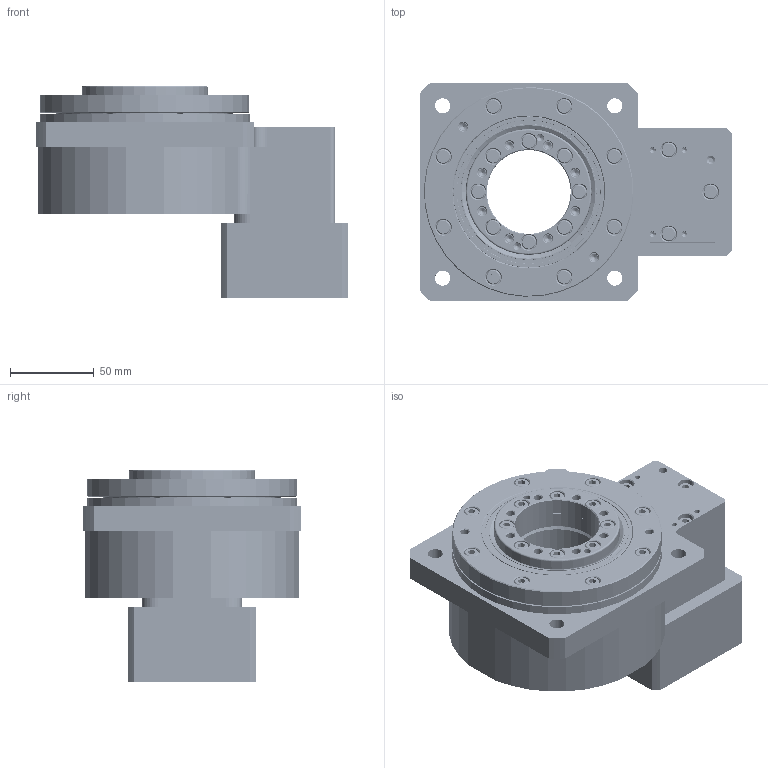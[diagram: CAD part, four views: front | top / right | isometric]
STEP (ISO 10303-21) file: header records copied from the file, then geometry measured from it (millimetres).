
FILE_DESCRIPTION (( 'STEP AP203' ), '1' );
FILE_NAME ('NT130-10-19-70-90-M6(20141118).STEP', '2014-11-19T03:48:58', ( 'user' ), ( 'SYNNEX' ), 'SwSTEP 2.0', 'SolidWorks 2012', '' );
FILE_SCHEMA (( 'CONFIG_CONTROL_DESIGN' ));
Length unit declared in the file: millimetre
Products named in the file (24): NT130-70-90-M6銜接法蘭; ISO 7092_M5; JIS 1176_M5 X 0~8_20_SIMP; JIS 1177 FP_M5 X 0~8_5_SIMP; 培林CRB7013; SKF SRB-619_61900; NT130入力側螺旋左小齒輪1-15-9_左齒輪; NT130入力側螺旋右大齒輪1-30-8_右齒輪; NT130出力側小齒輪1.25-16-16_小齒輪; NT130-10-19-70-90-M6(20141118); NT130馬達墊塊14-9L; GNP60-14-19銜接軸; JIS 1176_M5 X 0~8_10_SIMP; JIS 1176_M5 X 0~8_30_SIMP; JIS 1176_M5 X 0~8_16_SIMP; JIS 1177 CUP_M4 X 0~7_4_SIMP; 梢4-10; 油封tc55-80-8_油封; 油封75-90-8_油封; NT130入力座; NT130出力法蘭; NT130出力座; NT130出力側大齒輪1.25-80-15_大齒輪; NT130本體
Assembly tree (63 placements, depth 2):
  NT130-10-19-70-90-M6(20141118)
    NT130本體
    NT130出力側大齒輪1.25-80-15_大齒輪
    NT130出力側小齒輪1.25-16-16_小齒輪
    NT130入力側螺旋右大齒輪1-30-8_右齒輪
    NT130入力側螺旋左小齒輪1-15-9_左齒輪
    NT130出力座
    NT130出力法蘭
    NT130入力座
    SKF SRB-619_61900  x3
    培林CRB7013
    油封75-90-8_油封
    油封tc55-80-8_油封
    梢4-10  x2
    JIS 1177 CUP_M4 X 0~7_4_SIMP
    JIS 1177 FP_M5 X 0~8_5_SIMP
    ISO 7092_M5  x17
    JIS 1176_M5 X 0~8_16_SIMP  x6
    JIS 1176_M5 X 0~8_30_SIMP  x3
    JIS 1176_M5 X 0~8_10_SIMP  x8
    JIS 1176_M5 X 0~8_20_SIMP  x8
    NT130-70-90-M6銜接法蘭
    GNP60-14-19銜接軸
    NT130馬達墊塊14-9L
Bounding box: 186.29 x 130 x 126.6 mm (x, y, z)
Volume: 931710.8 mm3; surface area: 329556.3 mm2
Topology: 63 solids, 64 shells, 4505 faces, 10378 edges, 5970 vertices
Faces by surface type: cone 2348, cylinder 984, plane 508, bspline 402, torus 209, sphere 54
Entity records: 133018 total; most frequent: CARTESIAN_POINT 75176, ORIENTED_EDGE 11410, DIRECTION 11371, EDGE_CURVE 5705, AXIS2_PLACEMENT_3D 4679, VERTEX_POINT 3487, EDGE_LOOP 2680, CIRCLE 2616
